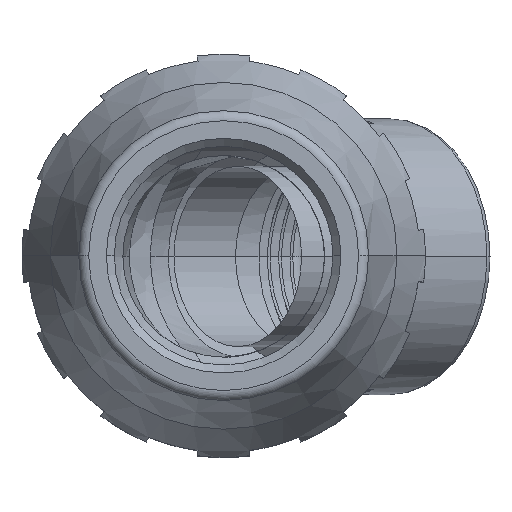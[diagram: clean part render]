
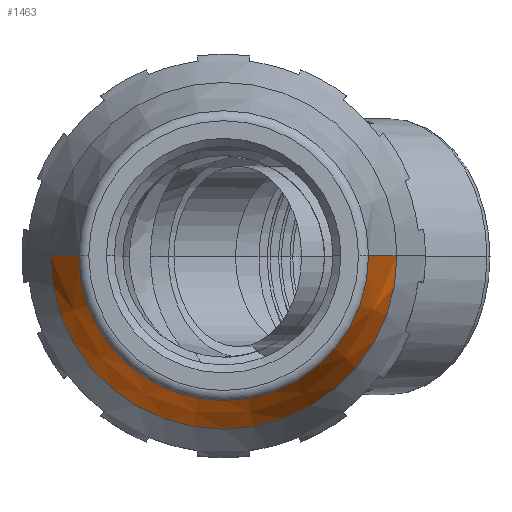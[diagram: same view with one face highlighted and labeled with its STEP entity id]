
A CAD part, top view. The second image highlights one B-rep face of the part: STEP entity #1463.
In plain terms, the highlighted conical face has half-angle 19.587 degrees and reference radius 13.423 mm.
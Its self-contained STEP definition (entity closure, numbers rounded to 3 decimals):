
#308 = DIRECTION ( 'NONE',  ( -0.335, 0., -0.942 ) ) ;
#319 = EDGE_CURVE ( 'NONE', #13097, #3830, #11456, .T. ) ;
#355 = DIRECTION ( 'NONE',  ( -1., 0., 0. ) ) ;
#395 = EDGE_CURVE ( 'NONE', #3830, #10112, #11240, .T. ) ;
#989 = CARTESIAN_POINT ( 'NONE',  ( 13.423, 0., 15.828 ) ) ;
#1369 = AXIS2_PLACEMENT_3D ( 'NONE', #6382, #1415, #355 ) ;
#1415 = DIRECTION ( 'NONE',  ( 0., 0., -1. ) ) ;
#1463 = ADVANCED_FACE ( 'NONE', ( #7317 ), #11405, .T. ) ;
#2099 = VERTEX_POINT ( 'NONE', #3125 ) ;
#2131 = EDGE_CURVE ( 'NONE', #2099, #10112, #11340, .T. ) ;
#2134 = DIRECTION ( 'NONE',  ( 0., 0., -1. ) ) ;
#2652 = CARTESIAN_POINT ( 'NONE',  ( -16.34, 0., 7.63 ) ) ;
#2878 = CARTESIAN_POINT ( 'NONE',  ( 16.34, 0., 7.63 ) ) ;
#2990 = DIRECTION ( 'NONE',  ( 0., 0., 1. ) ) ;
#3117 = VECTOR ( 'NONE', #308, 1000. ) ;
#3125 = CARTESIAN_POINT ( 'NONE',  ( 13.659, 0., 15.163 ) ) ;
#3781 = ORIENTED_EDGE ( 'NONE', *, *, #12646, .T. ) ;
#3830 = VERTEX_POINT ( 'NONE', #2652 ) ;
#4248 = DIRECTION ( 'NONE',  ( 1., 0., 0. ) ) ;
#4422 = CIRCLE ( 'NONE', #5941, 13.659 ) ;
#4816 = CARTESIAN_POINT ( 'NONE',  ( -13.659, 0., 15.163 ) ) ;
#5374 = CARTESIAN_POINT ( 'NONE',  ( -13.423, 0., 15.828 ) ) ;
#5941 = AXIS2_PLACEMENT_3D ( 'NONE', #8390, #2134, #4248 ) ;
#6008 = DIRECTION ( 'NONE',  ( 0.335, 0., -0.942 ) ) ;
#6382 = CARTESIAN_POINT ( 'NONE',  ( 0., 0., 15.828 ) ) ;
#6597 = ORIENTED_EDGE ( 'NONE', *, *, #319, .T. ) ;
#7317 = FACE_OUTER_BOUND ( 'NONE', #7979, .T. ) ;
#7979 = EDGE_LOOP ( 'NONE', ( #10680, #3781, #6597, #8002 ) ) ;
#8002 = ORIENTED_EDGE ( 'NONE', *, *, #395, .T. ) ;
#8390 = CARTESIAN_POINT ( 'NONE',  ( 0., 0., 15.163 ) ) ;
#9063 = VECTOR ( 'NONE', #6008, 1000. ) ;
#10112 = VERTEX_POINT ( 'NONE', #2878 ) ;
#10317 = DIRECTION ( 'NONE',  ( 1., 0., 0. ) ) ;
#10680 = ORIENTED_EDGE ( 'NONE', *, *, #2131, .F. ) ;
#11240 = CIRCLE ( 'NONE', #11436, 16.34 ) ;
#11295 = CARTESIAN_POINT ( 'NONE',  ( 0., 0., 7.63 ) ) ;
#11340 = LINE ( 'NONE', #989, #9063 ) ;
#11405 = CONICAL_SURFACE ( 'NONE', #1369, 13.423, 0.342 ) ;
#11436 = AXIS2_PLACEMENT_3D ( 'NONE', #11295, #2990, #10317 ) ;
#11456 = LINE ( 'NONE', #5374, #3117 ) ;
#12646 = EDGE_CURVE ( 'NONE', #2099, #13097, #4422, .T. ) ;
#13097 = VERTEX_POINT ( 'NONE', #4816 ) ;
